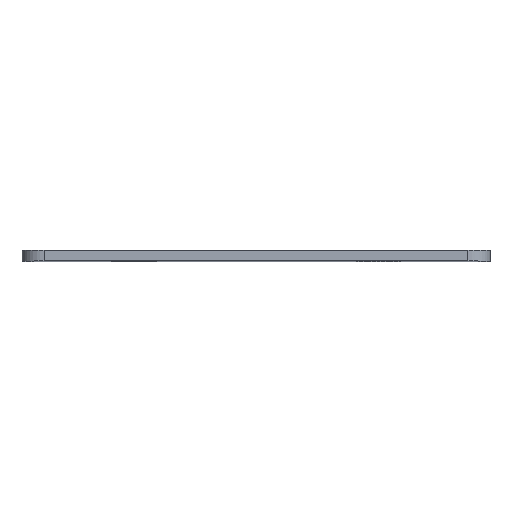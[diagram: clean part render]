
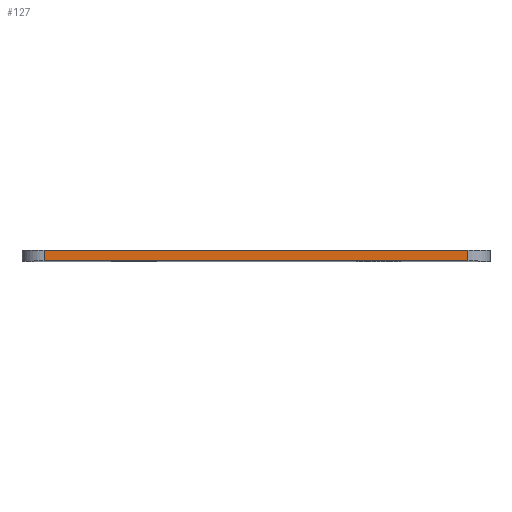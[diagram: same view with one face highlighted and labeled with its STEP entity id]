
A CAD part, top view. The second image highlights one B-rep face of the part: STEP entity #127.
In plain terms, the highlighted planar face has unit normal (0, 0, 1).
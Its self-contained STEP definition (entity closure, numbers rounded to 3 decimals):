
#49 = ORIENTED_EDGE ( 'NONE', *, *, #102, .T. ) ;
#52 = VECTOR ( 'NONE', #135, 1000. ) ;
#56 = ORIENTED_EDGE ( 'NONE', *, *, #426, .F. ) ;
#59 = CARTESIAN_POINT ( 'NONE',  ( 128.771, 0., 13.813 ) ) ;
#67 = ORIENTED_EDGE ( 'NONE', *, *, #586, .F. ) ;
#102 = EDGE_CURVE ( 'NONE', #818, #996, #601, .T. ) ;
#114 = AXIS2_PLACEMENT_3D ( 'NONE', #315, #873, #401 ) ;
#127 = ADVANCED_FACE ( 'NONE', ( #167 ), #892, .T. ) ;
#135 = DIRECTION ( 'NONE',  ( 1., 0., 0. ) ) ;
#167 = FACE_OUTER_BOUND ( 'NONE', #958, .T. ) ;
#261 = CARTESIAN_POINT ( 'NONE',  ( 50.896, 2., 13.813 ) ) ;
#315 = CARTESIAN_POINT ( 'NONE',  ( 50.896, 0., 13.813 ) ) ;
#362 = LINE ( 'NONE', #721, #968 ) ;
#369 = CARTESIAN_POINT ( 'NONE',  ( 50.896, 0., 13.813 ) ) ;
#401 = DIRECTION ( 'NONE',  ( 1., 0., 0. ) ) ;
#406 = LINE ( 'NONE', #474, #619 ) ;
#414 = DIRECTION ( 'NONE',  ( 0., 1., 0. ) ) ;
#426 = EDGE_CURVE ( 'NONE', #1003, #996, #406, .T. ) ;
#474 = CARTESIAN_POINT ( 'NONE',  ( 50.896, 2., 13.813 ) ) ;
#523 = DIRECTION ( 'NONE',  ( 0., 1., 0. ) ) ;
#586 = EDGE_CURVE ( 'NONE', #783, #1003, #362, .T. ) ;
#601 = LINE ( 'NONE', #59, #1020 ) ;
#619 = VECTOR ( 'NONE', #945, 1000. ) ;
#655 = CARTESIAN_POINT ( 'NONE',  ( 50.896, 0., 13.813 ) ) ;
#721 = CARTESIAN_POINT ( 'NONE',  ( 50.896, 0., 13.813 ) ) ;
#739 = EDGE_CURVE ( 'NONE', #783, #818, #859, .T. ) ;
#783 = VERTEX_POINT ( 'NONE', #655 ) ;
#818 = VERTEX_POINT ( 'NONE', #985 ) ;
#859 = LINE ( 'NONE', #369, #52 ) ;
#873 = DIRECTION ( 'NONE',  ( 0., 0., 1. ) ) ;
#892 = PLANE ( 'NONE',  #114 ) ;
#900 = CARTESIAN_POINT ( 'NONE',  ( 128.771, 2., 13.813 ) ) ;
#945 = DIRECTION ( 'NONE',  ( 1., 0., 0. ) ) ;
#958 = EDGE_LOOP ( 'NONE', ( #56, #67, #962, #49 ) ) ;
#962 = ORIENTED_EDGE ( 'NONE', *, *, #739, .T. ) ;
#968 = VECTOR ( 'NONE', #523, 1000. ) ;
#985 = CARTESIAN_POINT ( 'NONE',  ( 128.771, 0., 13.813 ) ) ;
#996 = VERTEX_POINT ( 'NONE', #900 ) ;
#1003 = VERTEX_POINT ( 'NONE', #261 ) ;
#1020 = VECTOR ( 'NONE', #414, 1000. ) ;
